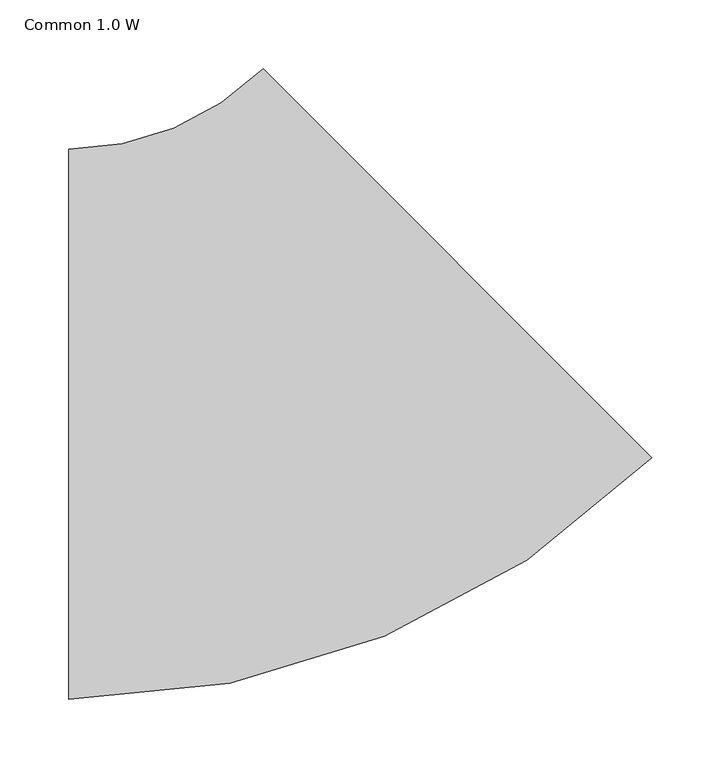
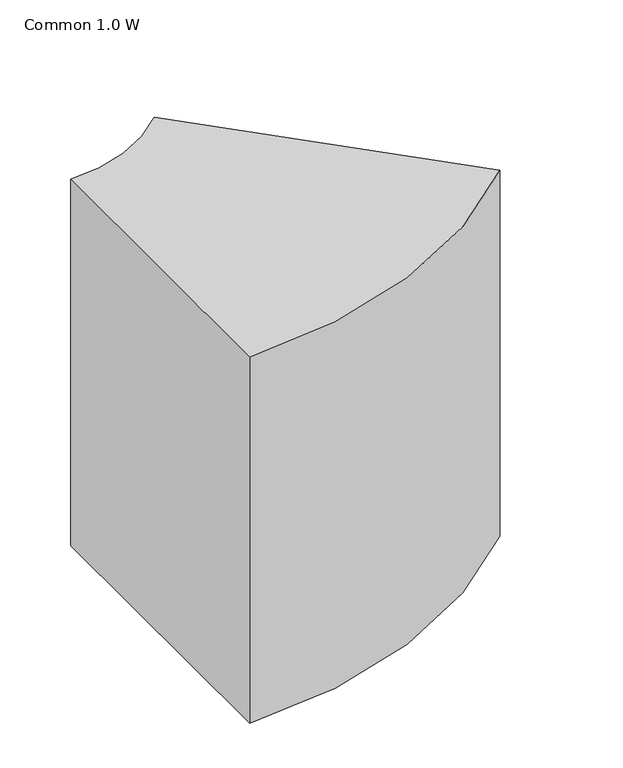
"""IFC4 building model written with IfcOpenShell, lengths in millimetres: duct fitting geometry, 011_角型エルボ - 半径 : Common 1.0 W."""

from ifc_helpers import new_model, si_unit, point, frame, frame_2d, origin, place, context, project, spatial, polyline, circle_curve, trimmed, segment, composite_curve, outline, extrude, source, transform, mapped, element, save


def common_1_0_w_a1188d46(model_context):
    return source(origin(), model_context, "Body", "SweptSolid", [
        extrude(outline(composite_curve([segment(trimmed(circle_curve(frame_2d((-165.6854249, 400.0)), 600.0), [point((258.5786438, -24.2640687))], [point((-165.6854249, -200.0))], False, "CARTESIAN"), True, "CONTINUOUS"), segment(polyline([(-165.6854249, -200.0), (-165.6854249, 200.0)]), True, "CONTINUOUS"), segment(trimmed(circle_curve(frame_2d((-165.6854249, 400.0)), 200.0), [point((-165.6854249, 200.0))], [point((-24.2640687, 258.5786438))], True, "CARTESIAN"), True, "CONTINUOUS"), segment(polyline([(-24.2640687, 258.5786438), (258.5786438, -24.2640687)]), True, "CONTINUOUS")], self_intersect=False)), frame((0.0, 0.0, -250.0), z_axis=(0.0, 0.0, 1.0), x_axis=(1.0, 0.0, 0.0)), (0.0, 0.0, 1.0), 500.0),
    ])


if __name__ == "__main__":
    model = new_model("IFC4")
    model_context = context("Model", 3, world=origin())
    ifc_project = project(units=[si_unit("LENGTHUNIT", "METRE", prefix="MILLI")], contexts=[model_context])
    site = spatial("IfcSite", under=ifc_project)
    building = spatial("IfcBuilding", under=site)
    placement = place(None, origin())
    common_1_0_w_shape = common_1_0_w_a1188d46(model_context)
    element("IfcDuctFitting", 1, ObjectType="011_角型エルボ - 半径 : Common 1.0 W", at=placement, inside=building, context=model_context, shape_type="MappedRepresentation", body=[
        mapped(common_1_0_w_shape, transform((0.0, 0.0, 0.0), x_axis=(1.0, 0.0, 0.0), y_axis=(0.0, 1.0, 0.0), z_axis=(0.0, 0.0, 1.0))),
    ])
    save(model, "model.ifc")
